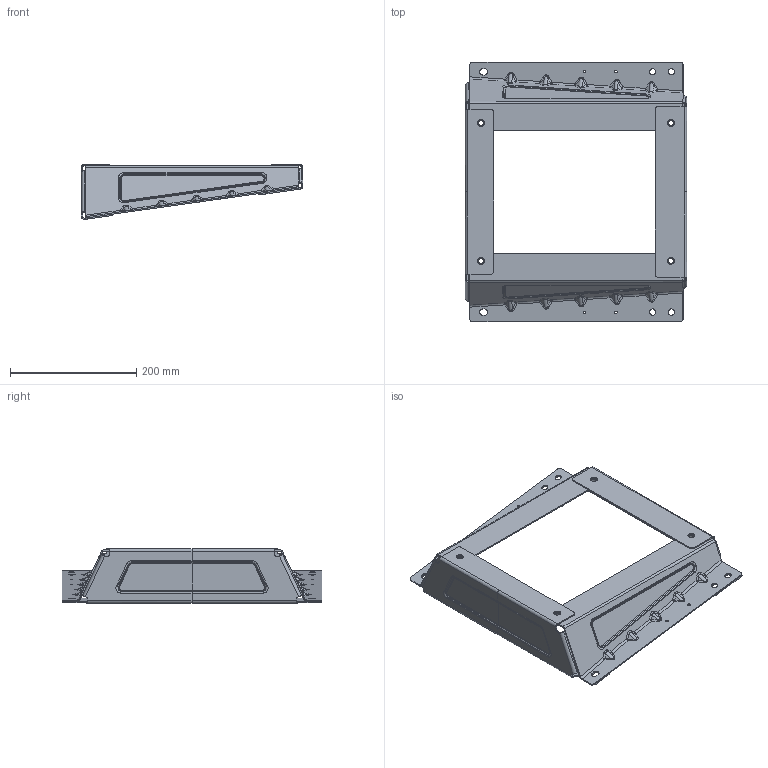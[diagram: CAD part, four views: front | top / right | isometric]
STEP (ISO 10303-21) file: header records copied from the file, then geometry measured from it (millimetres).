
FILE_DESCRIPTION(('CATIA V5 STEP Exchange'),'2;1');
FILE_NAME('F:\重卡项目整理未完待续\一汽项目\J6L自卸车\新开件清单\SHT0014477_A.stp','2022-04-25T15:30:00+00:00',('none'),('none'),'CATIA Version 5 Release 20 GA (IN-10)','CATIA V5 STEP AP214','none');
FILE_SCHEMA(('AUTOMOTIVE_DESIGN { 1 0 10303 214 1 1 1 1 }'));
Length unit declared in the file: millimetre
Products named in the file (6): SHT0014477; SHT0014480; SHT0014479; SHT0014478; SHT0014481; GB13680-M8
Assembly tree (8 placements, depth 2):
  SHT0014477
    SHT0014480
    SHT0014479
    SHT0014478
    SHT0014481
    GB13680-M8  x4
Bounding box: 350.08 x 411.11 x 86.57 mm (x, y, z)
Volume: 359454.3 mm3; surface area: 370516.5 mm2
Topology: 8 solids, 8 shells, 964 faces, 2516 edges, 1500 vertices
Faces by surface type: cylinder 530, plane 202, sphere 80, bspline 54, torus 44, extrusion 24, cone 24, revolution 6
Entity records: 35795 total; most frequent: CARTESIAN_POINT 15944, ORIENTED_EDGE 4512, DIRECTION 3211, EDGE_CURVE 2256, AXIS2_PLACEMENT_3D 1408, VERTEX_POINT 1380, VECTOR 972, LINE 960
